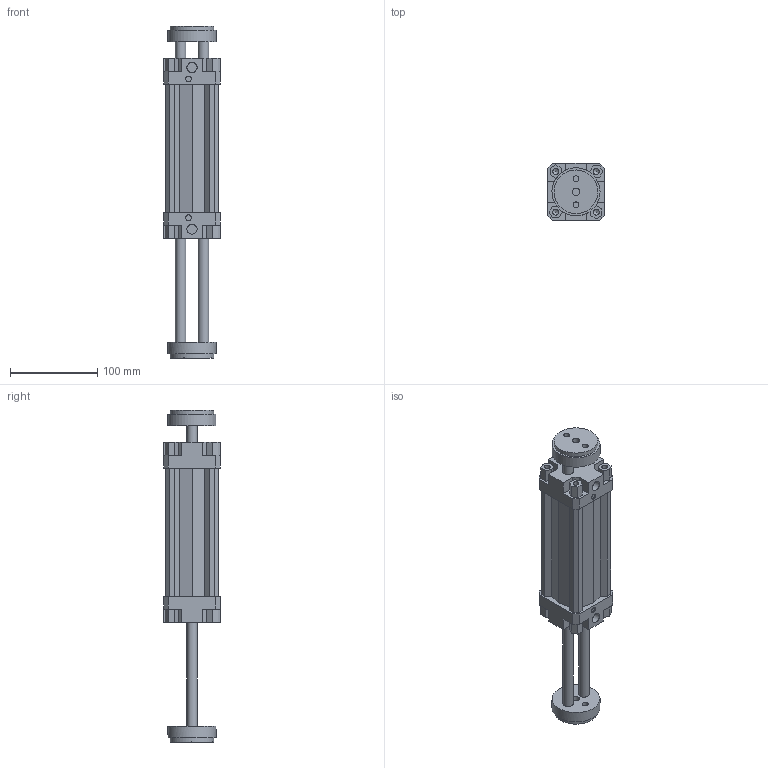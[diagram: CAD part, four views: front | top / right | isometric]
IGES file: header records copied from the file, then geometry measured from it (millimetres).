
Global section: file name: 132#_050_0100_06; native system: Autodesk Inventor 2014; preprocessor: unknown; author: A. Manieri; date: 20161006.155721; units: millimetre
Bounding box: 65 x 65 x 380 mm (x, y, z)
Volume: 591906.9 mm3; surface area: 153483 mm2
Topology: 2 solids, 2 shells, 190 faces, 518 edges, 354 vertices
Faces by surface type: bspline 190
